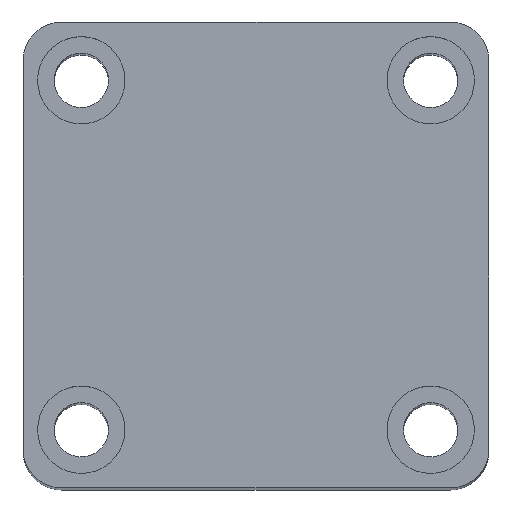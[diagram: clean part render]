
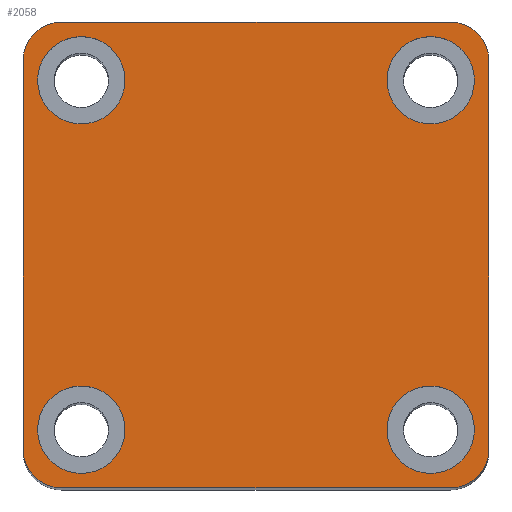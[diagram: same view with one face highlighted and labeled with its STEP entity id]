
A CAD part, top view. The second image highlights one B-rep face of the part: STEP entity #2058.
In plain terms, the highlighted planar face has unit normal (0, 0, 1).
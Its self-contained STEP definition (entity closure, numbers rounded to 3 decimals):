
#13 = VERTEX_POINT ( 'NONE', #1626 ) ;
#16 = VERTEX_POINT ( 'NONE', #1628 ) ;
#23 = VERTEX_POINT ( 'NONE', #1624 ) ;
#41 = VERTEX_POINT ( 'NONE', #1584 ) ;
#43 = VERTEX_POINT ( 'NONE', #1571 ) ;
#44 = VERTEX_POINT ( 'NONE', #1576 ) ;
#50 = VERTEX_POINT ( 'NONE', #1561 ) ;
#55 = VERTEX_POINT ( 'NONE', #1541 ) ;
#58 = VERTEX_POINT ( 'NONE', #1548 ) ;
#59 = VERTEX_POINT ( 'NONE', #1539 ) ;
#61 = VERTEX_POINT ( 'NONE', #1529 ) ;
#90 = VERTEX_POINT ( 'NONE', #1464 ) ;
#91 = VERTEX_POINT ( 'NONE', #1472 ) ;
#95 = VERTEX_POINT ( 'NONE', #1450 ) ;
#98 = VERTEX_POINT ( 'NONE', #1446 ) ;
#99 = VERTEX_POINT ( 'NONE', #1434 ) ;
#258 = FACE_BOUND ( 'NONE', #711, .T. ) ;
#260 = FACE_OUTER_BOUND ( 'NONE', #709, .T. ) ;
#261 = FACE_BOUND ( 'NONE', #2104, .T. ) ;
#263 = FACE_BOUND ( 'NONE', #707, .T. ) ;
#271 = FACE_BOUND ( 'NONE', #653, .T. ) ;
#377 = CIRCLE ( 'NONE', #979, 4.5 ) ;
#444 = CIRCLE ( 'NONE', #854, 4. ) ;
#445 = CIRCLE ( 'NONE', #855, 4. ) ;
#446 = CIRCLE ( 'NONE', #985, 4. ) ;
#448 = CIRCLE ( 'NONE', #978, 4.5 ) ;
#449 = CIRCLE ( 'NONE', #879, 4.5 ) ;
#450 = CIRCLE ( 'NONE', #878, 4.5 ) ;
#452 = CIRCLE ( 'NONE', #877, 4.5 ) ;
#456 = CIRCLE ( 'NONE', #853, 4. ) ;
#457 = VECTOR ( 'NONE', #1370, 1000. ) ;
#460 = LINE ( 'NONE', #1371, #457 ) ;
#465 = VECTOR ( 'NONE', #1382, 1000. ) ;
#468 = LINE ( 'NONE', #1383, #465 ) ;
#469 = VECTOR ( 'NONE', #1393, 1000. ) ;
#472 = LINE ( 'NONE', #1397, #469 ) ;
#481 = VECTOR ( 'NONE', #1433, 1000. ) ;
#483 = LINE ( 'NONE', #1435, #481 ) ;
#531 = CIRCLE ( 'NONE', #959, 4.5 ) ;
#591 = CIRCLE ( 'NONE', #921, 4.5 ) ;
#592 = CIRCLE ( 'NONE', #920, 4.5 ) ;
#653 = EDGE_LOOP ( 'NONE', ( #2120, #2124 ) ) ;
#707 = EDGE_LOOP ( 'NONE', ( #2226, #2177 ) ) ;
#709 = EDGE_LOOP ( 'NONE', ( #2185, #2125, #2116, #2139, #2129, #2155, #2140, #2126 ) ) ;
#711 = EDGE_LOOP ( 'NONE', ( #2118, #2176 ) ) ;
#768 = AXIS2_PLACEMENT_3D ( 'NONE', #2391, #2398, #2389 ) ;
#853 = AXIS2_PLACEMENT_3D ( 'NONE', #1846, #1833, #1830 ) ;
#854 = AXIS2_PLACEMENT_3D ( 'NONE', #1783, #1780, #1779 ) ;
#855 = AXIS2_PLACEMENT_3D ( 'NONE', #1804, #1801, #1798 ) ;
#866 = EDGE_CURVE ( 'NONE', #61, #16, #591, .T. ) ;
#872 = EDGE_CURVE ( 'NONE', #44, #95, #592, .T. ) ;
#877 = AXIS2_PLACEMENT_3D ( 'NONE', #1960, #1948, #1942 ) ;
#878 = AXIS2_PLACEMENT_3D ( 'NONE', #1925, #1924, #1921 ) ;
#879 = AXIS2_PLACEMENT_3D ( 'NONE', #1918, #1912, #1906 ) ;
#920 = AXIS2_PLACEMENT_3D ( 'NONE', #1705, #1704, #1703 ) ;
#921 = AXIS2_PLACEMENT_3D ( 'NONE', #1711, #1710, #1709 ) ;
#959 = AXIS2_PLACEMENT_3D ( 'NONE', #1574, #1573, #1572 ) ;
#972 = EDGE_CURVE ( 'NONE', #43, #55, #531, .T. ) ;
#978 = AXIS2_PLACEMENT_3D ( 'NONE', #1889, #1888, #1877 ) ;
#979 = AXIS2_PLACEMENT_3D ( 'NONE', #1767, #1766, #1765 ) ;
#985 = AXIS2_PLACEMENT_3D ( 'NONE', #1814, #1813, #1810 ) ;
#1247 = EDGE_CURVE ( 'NONE', #99, #91, #483, .T. ) ;
#1253 = EDGE_CURVE ( 'NONE', #23, #90, #472, .T. ) ;
#1255 = EDGE_CURVE ( 'NONE', #98, #41, #468, .T. ) ;
#1259 = EDGE_CURVE ( 'NONE', #50, #58, #460, .T. ) ;
#1263 = EDGE_CURVE ( 'NONE', #16, #61, #452, .T. ) ;
#1264 = EDGE_CURVE ( 'NONE', #95, #44, #450, .T. ) ;
#1265 = EDGE_CURVE ( 'NONE', #55, #43, #449, .T. ) ;
#1266 = EDGE_CURVE ( 'NONE', #59, #13, #448, .T. ) ;
#1267 = EDGE_CURVE ( 'NONE', #90, #98, #456, .T. ) ;
#1268 = EDGE_CURVE ( 'NONE', #41, #50, #446, .T. ) ;
#1269 = EDGE_CURVE ( 'NONE', #58, #99, #445, .T. ) ;
#1270 = EDGE_CURVE ( 'NONE', #91, #23, #444, .T. ) ;
#1329 = EDGE_CURVE ( 'NONE', #13, #59, #377, .T. ) ;
#1370 = DIRECTION ( 'NONE',  ( 1., 0., 0. ) ) ;
#1371 = CARTESIAN_POINT ( 'NONE',  ( -24., -24., 120. ) ) ;
#1382 = DIRECTION ( 'NONE',  ( 0., -1., 0. ) ) ;
#1383 = CARTESIAN_POINT ( 'NONE',  ( -24., 24., 120. ) ) ;
#1393 = DIRECTION ( 'NONE',  ( -1., 0., 0. ) ) ;
#1397 = CARTESIAN_POINT ( 'NONE',  ( -24., 24., 120. ) ) ;
#1433 = DIRECTION ( 'NONE',  ( 0., 1., 0. ) ) ;
#1434 = CARTESIAN_POINT ( 'NONE',  ( 24., -20., 120. ) ) ;
#1435 = CARTESIAN_POINT ( 'NONE',  ( 24., 24., 120. ) ) ;
#1446 = CARTESIAN_POINT ( 'NONE',  ( -24., 20., 120. ) ) ;
#1450 = CARTESIAN_POINT ( 'NONE',  ( 22.5, 18., 120. ) ) ;
#1464 = CARTESIAN_POINT ( 'NONE',  ( -20., 24., 120. ) ) ;
#1472 = CARTESIAN_POINT ( 'NONE',  ( 24., 20., 120. ) ) ;
#1529 = CARTESIAN_POINT ( 'NONE',  ( -22.5, 18., 120. ) ) ;
#1539 = CARTESIAN_POINT ( 'NONE',  ( 22.5, -18., 120. ) ) ;
#1541 = CARTESIAN_POINT ( 'NONE',  ( -13.5, -18., 120. ) ) ;
#1548 = CARTESIAN_POINT ( 'NONE',  ( 20., -24., 120. ) ) ;
#1561 = CARTESIAN_POINT ( 'NONE',  ( -20., -24., 120. ) ) ;
#1571 = CARTESIAN_POINT ( 'NONE',  ( -22.5, -18., 120. ) ) ;
#1572 = DIRECTION ( 'NONE',  ( 1., 0., 0. ) ) ;
#1573 = DIRECTION ( 'NONE',  ( 0., 0., 1. ) ) ;
#1574 = CARTESIAN_POINT ( 'NONE',  ( -18., -18., 120. ) ) ;
#1576 = CARTESIAN_POINT ( 'NONE',  ( 13.5, 18., 120. ) ) ;
#1584 = CARTESIAN_POINT ( 'NONE',  ( -24., -20., 120. ) ) ;
#1624 = CARTESIAN_POINT ( 'NONE',  ( 20., 24., 120. ) ) ;
#1626 = CARTESIAN_POINT ( 'NONE',  ( 13.5, -18., 120. ) ) ;
#1628 = CARTESIAN_POINT ( 'NONE',  ( -13.5, 18., 120. ) ) ;
#1703 = DIRECTION ( 'NONE',  ( 1., 0., 0. ) ) ;
#1704 = DIRECTION ( 'NONE',  ( 0., 0., 1. ) ) ;
#1705 = CARTESIAN_POINT ( 'NONE',  ( 18., 18., 120. ) ) ;
#1709 = DIRECTION ( 'NONE',  ( 1., 0., 0. ) ) ;
#1710 = DIRECTION ( 'NONE',  ( 0., 0., 1. ) ) ;
#1711 = CARTESIAN_POINT ( 'NONE',  ( -18., 18., 120. ) ) ;
#1765 = DIRECTION ( 'NONE',  ( 1., 0., 0. ) ) ;
#1766 = DIRECTION ( 'NONE',  ( 0., 0., 1. ) ) ;
#1767 = CARTESIAN_POINT ( 'NONE',  ( 18., -18., 120. ) ) ;
#1779 = DIRECTION ( 'NONE',  ( 1., 0., 0. ) ) ;
#1780 = DIRECTION ( 'NONE',  ( 0., 0., 1. ) ) ;
#1783 = CARTESIAN_POINT ( 'NONE',  ( 20., 20., 120. ) ) ;
#1798 = DIRECTION ( 'NONE',  ( 1., 0., 0. ) ) ;
#1801 = DIRECTION ( 'NONE',  ( 0., 0., 1. ) ) ;
#1804 = CARTESIAN_POINT ( 'NONE',  ( 20., -20., 120. ) ) ;
#1810 = DIRECTION ( 'NONE',  ( 1., 0., 0. ) ) ;
#1813 = DIRECTION ( 'NONE',  ( 0., 0., 1. ) ) ;
#1814 = CARTESIAN_POINT ( 'NONE',  ( -20., -20., 120. ) ) ;
#1830 = DIRECTION ( 'NONE',  ( 1., 0., 0. ) ) ;
#1833 = DIRECTION ( 'NONE',  ( 0., 0., 1. ) ) ;
#1846 = CARTESIAN_POINT ( 'NONE',  ( -20., 20., 120. ) ) ;
#1877 = DIRECTION ( 'NONE',  ( 1., 0., 0. ) ) ;
#1888 = DIRECTION ( 'NONE',  ( 0., 0., 1. ) ) ;
#1889 = CARTESIAN_POINT ( 'NONE',  ( 18., -18., 120. ) ) ;
#1906 = DIRECTION ( 'NONE',  ( 1., 0., 0. ) ) ;
#1912 = DIRECTION ( 'NONE',  ( 0., 0., 1. ) ) ;
#1918 = CARTESIAN_POINT ( 'NONE',  ( -18., -18., 120. ) ) ;
#1921 = DIRECTION ( 'NONE',  ( 1., 0., 0. ) ) ;
#1924 = DIRECTION ( 'NONE',  ( 0., 0., 1. ) ) ;
#1925 = CARTESIAN_POINT ( 'NONE',  ( 18., 18., 120. ) ) ;
#1942 = DIRECTION ( 'NONE',  ( 1., 0., 0. ) ) ;
#1948 = DIRECTION ( 'NONE',  ( 0., 0., 1. ) ) ;
#1960 = CARTESIAN_POINT ( 'NONE',  ( -18., 18., 120. ) ) ;
#2058 = ADVANCED_FACE ( 'NONE', ( #261, #258, #263, #271, #260 ), #2392, .T. ) ;
#2104 = EDGE_LOOP ( 'NONE', ( #2117, #2174 ) ) ;
#2116 = ORIENTED_EDGE ( 'NONE', *, *, #1255, .T. ) ;
#2117 = ORIENTED_EDGE ( 'NONE', *, *, #1263, .F. ) ;
#2118 = ORIENTED_EDGE ( 'NONE', *, *, #1264, .F. ) ;
#2120 = ORIENTED_EDGE ( 'NONE', *, *, #1266, .F. ) ;
#2124 = ORIENTED_EDGE ( 'NONE', *, *, #1329, .F. ) ;
#2125 = ORIENTED_EDGE ( 'NONE', *, *, #1267, .T. ) ;
#2126 = ORIENTED_EDGE ( 'NONE', *, *, #1270, .T. ) ;
#2129 = ORIENTED_EDGE ( 'NONE', *, *, #1259, .T. ) ;
#2139 = ORIENTED_EDGE ( 'NONE', *, *, #1268, .T. ) ;
#2140 = ORIENTED_EDGE ( 'NONE', *, *, #1247, .T. ) ;
#2155 = ORIENTED_EDGE ( 'NONE', *, *, #1269, .T. ) ;
#2174 = ORIENTED_EDGE ( 'NONE', *, *, #866, .F. ) ;
#2176 = ORIENTED_EDGE ( 'NONE', *, *, #872, .F. ) ;
#2177 = ORIENTED_EDGE ( 'NONE', *, *, #972, .F. ) ;
#2185 = ORIENTED_EDGE ( 'NONE', *, *, #1253, .T. ) ;
#2226 = ORIENTED_EDGE ( 'NONE', *, *, #1265, .F. ) ;
#2389 = DIRECTION ( 'NONE',  ( 1., 0., 0. ) ) ;
#2391 = CARTESIAN_POINT ( 'NONE',  ( 0., 0., 120. ) ) ;
#2392 = PLANE ( 'NONE',  #768 ) ;
#2398 = DIRECTION ( 'NONE',  ( 0., 0., 1. ) ) ;
